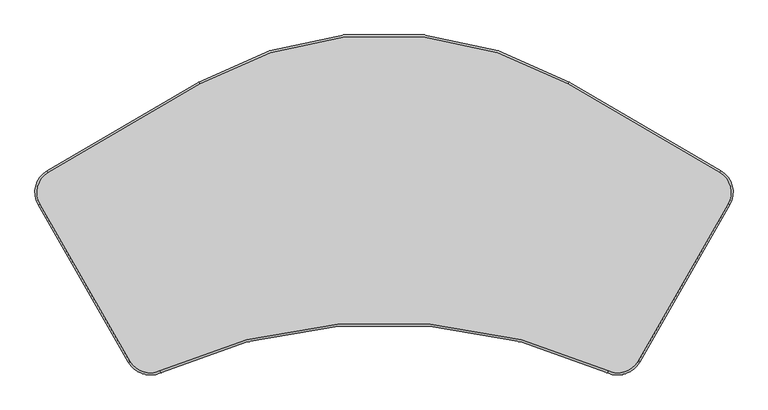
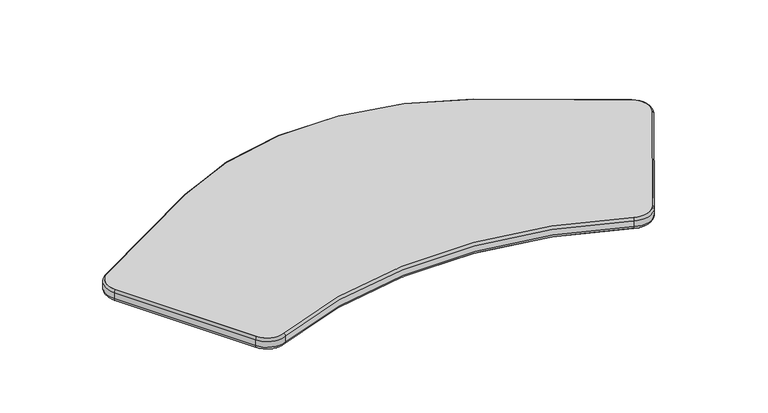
"""IFC4 building model written with IfcOpenShell, lengths in millimetres: furniture geometry, SmithSystem_AM_Table_Education_Elemental_Activity_Crescent_30Dx60W : 30D x 60W."""

from ifc_helpers import new_model, si_unit, point, frame, frame_2d, origin, place, context, project, spatial, polyline, circle_curve, ellipse_curve, trimmed, segment, composite_curve, outline, extrude, source, transform, mapped, element, save
from ifc_brep_helpers import plane_surface, cylinder_surface, revolved_surface, advanced_brep


def furniture_bfec62f4(model_context):
    return source(origin(), model_context, "Body", "SolidModel", [
        advanced_brep(
        [(30.9022, -609.6226712, 754.2523925), (360.0186904, -417.0000112, 754.2523925), (360.0186904, -417.0000112, 737.8734504), (30.9022, -609.6226712, 737.8734504), (32.9414039, -613.0213369, 762.0), (361.9833192, -420.4423236, 762.0), (32.9414039, -613.0213369, 730.2285912), (361.9833192, -420.4423236, 730.2285912), (11.5728031, -683.8273649, 754.2523925), (11.5728031, -683.8273649, 737.8734504), (15.0109671, -681.8554853, 762.0), (15.0109671, -681.8554853, 730.2285912), (207.2723212, -1025.0485111, 737.8734504), (207.2723212, -1025.0485111, 754.2523925), (210.7104852, -1023.0766314, 762.0), (210.7104852, -1023.0766314, 730.2285912), (277.4975904, -1047.6311108, 754.2523925), (277.4975904, -1047.6311108, 737.8734504), (275.8532189, -1044.0248214, 762.0), (275.8532189, -1044.0248214, 730.2285912), (1246.5024096, -1047.6311108, 754.2523925), (1246.5024096, -1047.6311108, 737.8734504), (1248.1467811, -1044.0248214, 762.0), (1248.1467811, -1044.0248214, 730.2285912), (1316.7276788, -1025.0485111, 754.2523925), (1316.7276788, -1025.0485111, 737.8734504), (1313.2895148, -1023.0766314, 762.0), (1313.2895148, -1023.0766314, 730.2285912), (1512.4271969, -683.8273649, 737.8734504), (1512.4271969, -683.8273649, 754.2523925), (1508.9890329, -681.8554853, 762.0), (1508.9890329, -681.8554853, 730.2285912), (1493.0978, -609.6226712, 754.2523925), (1493.0978, -609.6226712, 737.8734504), (1491.0585961, -613.0213369, 762.0), (1491.0585961, -613.0213369, 730.2285912), (1163.9813096, -417.0000112, 754.2523925), (1163.9813096, -417.0000112, 737.8734504), (1162.0166808, -420.4423236, 762.0), (1162.0166808, -420.4423236, 730.2285912)],
        [
            (0, 1, circle_curve(frame((9030.3611645, -15608.6875425, 754.2523925), z_axis=(0.0, 0.0, -1.0), x_axis=(-0.49568109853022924, 0.8685046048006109, 0.0)), 17491.7754578)),
            (1, 2),
            (2, 3, circle_curve(frame((9030.3611645, -15608.6875425, 737.8734504), z_axis=(0.0, 0.0, 1.0), x_axis=(-0.49568109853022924, 0.8685046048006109, 0.0)), 17491.7754578)),
            (3, 0),
            (4, 5, circle_curve(frame((9030.3611645, -15608.6875425, 762.0), z_axis=(0.0, 0.0, -1.0), x_axis=(-0.49568109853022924, 0.8685046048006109, 0.0)), 17487.8119643)),
            (5, 1, circle_curve(frame((364.7544444, -425.2977336, 754.2523925), z_axis=(-0.8685046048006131, -0.49568109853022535, 0.0), x_axis=(0.49568109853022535, -0.8685046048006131, 0.0)), 9.5540339)),
            (0, 4, circle_curve(frame((35.8177179, -617.8151829, 754.2523925), z_axis=(0.8574924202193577, 0.5144965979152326, 0.0), x_axis=(0.5144965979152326, -0.8574924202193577, 0.0)), 9.5540339)),
            (6, 7, circle_curve(frame((9030.3611645, -15608.6875425, 730.2285912), z_axis=(0.0, 0.0, -1.0), x_axis=(-0.49568109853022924, 0.8685046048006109, 0.0)), 17487.8119643)),
            (7, 5),
            (4, 6),
            (2, 7, circle_curve(frame((364.6555487, -425.1244541, 737.8734504), z_axis=(-0.8685046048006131, -0.49568109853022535, 0.0), x_axis=(0.49568109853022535, -0.8685046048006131, 0.0)), 9.3545191)),
            (6, 3, circle_curve(frame((35.7150683, -617.6441004, 737.8734504), z_axis=(0.8574924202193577, 0.5144965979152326, 0.0), x_axis=(0.5144965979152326, -0.8574924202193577, 0.0)), 9.3545191)),
            (8, 0, circle_curve(frame((59.0778311, -656.5819518, 754.2523925), z_axis=(0.0, 0.0, -1.0), x_axis=(-0.5144965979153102, 0.857492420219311, 0.0)), 54.7634935)),
            (3, 9, circle_curve(frame((59.0778311, -656.5819518, 737.8734504), z_axis=(0.0, 0.0, 1.0), x_axis=(-0.5144965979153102, 0.857492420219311, 0.0)), 54.7634935)),
            (9, 8),
            (10, 4, circle_curve(frame((59.0778311, -656.5819518, 762.0), z_axis=(0.0, 0.0, -1.0), x_axis=(-0.5144965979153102, 0.857492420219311, 0.0)), 50.8)),
            (8, 10, circle_curve(frame((19.8605258, -679.0741327, 754.2523925), z_axis=(-0.4975105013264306, 0.8674579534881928, 0.0), x_axis=(0.8674579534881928, 0.4975105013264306, 0.0)), 9.5540339)),
            (11, 6, circle_curve(frame((59.0778311, -656.5819518, 730.2285912), z_axis=(0.0, 0.0, -1.0), x_axis=(-0.5144965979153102, 0.857492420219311, 0.0)), 50.8)),
            (10, 11),
            (11, 9, circle_curve(frame((19.6874551, -679.1733934, 737.8734504), z_axis=(-0.4975105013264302, 0.867457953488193, 0.0), x_axis=(0.867457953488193, 0.4975105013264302, 0.0)), 9.3545191)),
            (9, 12),
            (12, 13),
            (13, 8),
            (13, 14, circle_curve(frame((215.5600439, -1020.2952789, 754.2523925), z_axis=(-0.4975105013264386, 0.8674579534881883, 0.0), x_axis=(0.8674579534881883, 0.4975105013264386, 0.0)), 9.5540339)),
            (14, 10),
            (14, 15),
            (15, 11),
            (15, 12, circle_curve(frame((215.3869732, -1020.3945396, 737.8734504), z_axis=(-0.4975105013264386, 0.8674579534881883, 0.0), x_axis=(0.8674579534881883, 0.4975105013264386, 0.0)), 9.3545191)),
            (16, 13, circle_curve(frame((254.7773492, -997.803098, 754.2523925), z_axis=(0.0, 0.0, -1.0), x_axis=(-0.8674579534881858, -0.4975105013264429, 0.0)), 54.7634935)),
            (12, 17, circle_curve(frame((254.7773492, -997.803098, 737.8734504), z_axis=(0.0, 0.0, 1.0), x_axis=(-0.8674579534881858, -0.4975105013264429, 0.0)), 54.7634935)),
            (17, 16),
            (18, 14, circle_curve(frame((254.7773492, -997.803098, 762.0), z_axis=(0.0, 0.0, -1.0), x_axis=(-0.8674579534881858, -0.4975105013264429, 0.0)), 50.8)),
            (16, 18, circle_curve(frame((273.5338193, -1038.9381204, 754.2523925), z_axis=(-0.9098764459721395, -0.41487932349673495, 0.0), x_axis=(-0.41487932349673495, 0.9098764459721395, 0.0)), 9.5540339)),
            (19, 15, circle_curve(frame((254.7773492, -997.803098, 730.2285912), z_axis=(0.0, 0.0, -1.0), x_axis=(-0.8674579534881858, -0.4975105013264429, 0.0)), 50.8)),
            (18, 19),
            (19, 17, circle_curve(frame((273.6165938, -1039.1196542, 737.8734504), z_axis=(-0.9098764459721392, -0.4148793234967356, 0.0), x_axis=(-0.4148793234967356, 0.9098764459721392, 0.0)), 9.3545191)),
            (20, 16, circle_curve(frame((762.0, -2110.1987192, 754.2523925), z_axis=(0.0, 0.0, 1.0), x_axis=(-0.41487932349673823, 0.9098764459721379, 0.0)), 1167.815271)),
            (17, 21, circle_curve(frame((762.0, -2110.1987192, 737.8734504), z_axis=(0.0, 0.0, -1.0), x_axis=(-0.41487932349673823, 0.9098764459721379, 0.0)), 1167.815271)),
            (21, 20),
            (22, 18, circle_curve(frame((762.0, -2110.1987192, 762.0), z_axis=(0.0, 0.0, 1.0), x_axis=(-0.41487932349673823, 0.9098764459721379, 0.0)), 1171.7787646)),
            (20, 22, circle_curve(frame((1250.4661807, -1038.9381204, 754.2523925), z_axis=(-0.909876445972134, 0.4148793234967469, 0.0), x_axis=(0.4148793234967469, 0.909876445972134, 0.0)), 9.5540339)),
            (23, 19, circle_curve(frame((762.0, -2110.1987192, 730.2285912), z_axis=(0.0, 0.0, 1.0), x_axis=(-0.41487932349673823, 0.9098764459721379, 0.0)), 1171.7787646)),
            (22, 23),
            (23, 21, circle_curve(frame((1250.3834062, -1039.1196542, 737.8734504), z_axis=(-0.909876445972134, 0.41487932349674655, 0.0), x_axis=(0.41487932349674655, 0.909876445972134, 0.0)), 9.3545191)),
            (24, 20, circle_curve(frame((1269.2226508, -997.803098, 754.2523925), z_axis=(0.0, 0.0, -1.0), x_axis=(-0.41487932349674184, -0.9098764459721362, 0.0)), 54.7634935)),
            (21, 25, circle_curve(frame((1269.2226508, -997.803098, 737.8734504), z_axis=(0.0, 0.0, 1.0), x_axis=(-0.41487932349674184, -0.9098764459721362, 0.0)), 54.7634935)),
            (25, 24),
            (26, 22, circle_curve(frame((1269.2226508, -997.803098, 762.0), z_axis=(0.0, 0.0, -1.0), x_axis=(-0.41487932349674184, -0.9098764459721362, 0.0)), 50.8)),
            (24, 26, circle_curve(frame((1308.4399561, -1020.2952789, 754.2523925), z_axis=(-0.4975105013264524, -0.8674579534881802, 0.0), x_axis=(-0.8674579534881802, 0.4975105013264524, 0.0)), 9.5540339)),
            (27, 23, circle_curve(frame((1269.2226508, -997.803098, 730.2285912), z_axis=(0.0, 0.0, -1.0), x_axis=(-0.41487932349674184, -0.9098764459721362, 0.0)), 50.8)),
            (26, 27),
            (27, 25, circle_curve(frame((1308.6130268, -1020.3945396, 737.8734504), z_axis=(-0.4975105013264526, -0.8674579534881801, 0.0), x_axis=(-0.8674579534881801, 0.4975105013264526, 0.0)), 9.3545191)),
            (25, 28),
            (28, 29),
            (29, 24),
            (29, 30, circle_curve(frame((1504.1394742, -679.0741327, 754.2523925), z_axis=(-0.49751050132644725, -0.8674579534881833, 0.0), x_axis=(-0.8674579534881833, 0.49751050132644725, 0.0)), 9.5540339)),
            (30, 26),
            (30, 31),
            (31, 27),
            (31, 28, circle_curve(frame((1504.3125449, -679.1733934, 737.8734504), z_axis=(-0.49751050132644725, -0.8674579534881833, 0.0), x_axis=(-0.8674579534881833, 0.49751050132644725, 0.0)), 9.3545191)),
            (32, 29, circle_curve(frame((1464.9221689, -656.5819518, 754.2523925), z_axis=(0.0, 0.0, -1.0), x_axis=(0.8674579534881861, -0.49751050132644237, 0.0)), 54.7634935)),
            (28, 33, circle_curve(frame((1464.9221689, -656.5819518, 737.8734504), z_axis=(0.0, 0.0, 1.0), x_axis=(0.8674579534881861, -0.49751050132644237, 0.0)), 54.7634935)),
            (33, 32),
            (34, 30, circle_curve(frame((1464.9221689, -656.5819518, 762.0), z_axis=(0.0, 0.0, -1.0), x_axis=(0.8674579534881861, -0.49751050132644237, 0.0)), 50.8)),
            (32, 34, circle_curve(frame((1488.1822821, -617.8151829, 754.2523925), z_axis=(0.8574924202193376, -0.5144965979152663, 0.0), x_axis=(-0.5144965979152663, -0.8574924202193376, 0.0)), 9.5540339)),
            (35, 31, circle_curve(frame((1464.9221689, -656.5819518, 730.2285912), z_axis=(0.0, 0.0, -1.0), x_axis=(0.8674579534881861, -0.49751050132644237, 0.0)), 50.8)),
            (34, 35),
            (35, 33, circle_curve(frame((1488.2849317, -617.6441004, 737.8734504), z_axis=(0.8574924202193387, -0.5144965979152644, 0.0), x_axis=(-0.5144965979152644, -0.8574924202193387, 0.0)), 9.3545191)),
            (36, 32, circle_curve(frame((-7506.3611645, -15608.6875425, 754.2523925), z_axis=(0.0, 0.0, -1.0), x_axis=(0.5144965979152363, 0.8574924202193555, 0.0)), 17491.7754578)),
            (33, 37, circle_curve(frame((-7506.3611645, -15608.6875425, 737.8734504), z_axis=(0.0, 0.0, 1.0), x_axis=(0.5144965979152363, 0.8574924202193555, 0.0)), 17491.7754578)),
            (37, 36),
            (38, 34, circle_curve(frame((-7506.3611645, -15608.6875425, 762.0), z_axis=(0.0, 0.0, -1.0), x_axis=(0.5144965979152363, 0.8574924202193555, 0.0)), 17487.8119643)),
            (36, 38, circle_curve(frame((1159.2455556, -425.2977336, 754.2523925), z_axis=(0.8685046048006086, -0.49568109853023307, 0.0), x_axis=(-0.49568109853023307, -0.8685046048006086, 0.0)), 9.5540339)),
            (39, 35, circle_curve(frame((-7506.3611645, -15608.6875425, 730.2285912), z_axis=(0.0, 0.0, -1.0), x_axis=(0.5144965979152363, 0.8574924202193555, 0.0)), 17487.8119643)),
            (38, 39),
            (39, 37, circle_curve(frame((1159.3444513, -425.1244541, 737.8734504), z_axis=(0.8685046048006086, -0.4956810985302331, 0.0), x_axis=(-0.4956810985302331, -0.8685046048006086, 0.0)), 9.3545191)),
            (1, 36, circle_curve(frame((762.0, -1121.329104, 754.2523925), z_axis=(0.0, 0.0, -1.0), x_axis=(0.4956810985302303, 0.8685046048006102, 0.0)), 810.9675976)),
            (37, 2, circle_curve(frame((762.0, -1121.329104, 737.8734504), z_axis=(0.0, 0.0, 1.0), x_axis=(0.4956810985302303, 0.8685046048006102, 0.0)), 810.9675976)),
            (5, 38, circle_curve(frame((762.0, -1121.329104, 762.0), z_axis=(0.0, 0.0, -1.0), x_axis=(0.4956810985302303, 0.8685046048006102, 0.0)), 807.004104)),
            (7, 39, circle_curve(frame((762.0, -1121.329104, 730.2285912), z_axis=(0.0, 0.0, -1.0), x_axis=(0.4956810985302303, 0.8685046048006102, 0.0)), 807.004104)),
        ],
        [
            cylinder_surface(frame((9030.3611645, -15608.6875425, 0.0), z_axis=(0.0, 0.0, 1.0), x_axis=(-0.49568109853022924, 0.8685046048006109, 0.0)), 17491.7754578),
            revolved_surface(trimmed(ellipse_curve(frame((364.7544444, -425.2977336, 754.2523925), z_axis=(0.8685046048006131, 0.49568109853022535, 0.0), x_axis=(0.49568109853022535, -0.8685046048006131, 0.0)), 9.5540339, 9.5540339), [point((360.0186904, -417.0000112, 754.2523925))], [point((361.9833192, -420.4423236, 762.0))], True, "CARTESIAN"), (9030.3611645, -15608.6875425, 0.0), (0.0, 0.0, 1.0)),
            revolved_surface(polyline([(361.983319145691, -420.4423236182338, 762.0), (361.983319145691, -420.4423236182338, 730.2285912)]), (9030.3611645, -15608.6875425, 0.0), (0.0, 0.0, 1.0)),
            revolved_surface(trimmed(ellipse_curve(frame((364.6555487, -425.1244541, 737.8734504), z_axis=(0.8685046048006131, 0.49568109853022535, 0.0), x_axis=(0.49568109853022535, -0.8685046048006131, 0.0)), 9.3545191, 9.3545191), [point((361.9833192, -420.4423236, 730.2285912))], [point((360.0186904, -417.0000112, 737.8734504))], True, "CARTESIAN"), (9030.3611645, -15608.6875425, 0.0), (0.0, 0.0, 1.0)),
            cylinder_surface(frame((59.0778311, -656.5819518, 0.0), z_axis=(0.0, 0.0, 1.0), x_axis=(-0.5144965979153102, 0.857492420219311, 0.0)), 54.7634935),
            revolved_surface(trimmed(ellipse_curve(frame((35.8177179, -617.8151829, 754.2523925), z_axis=(0.8574924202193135, 0.5144965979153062, 0.0), x_axis=(0.5144965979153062, -0.8574924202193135, 0.0)), 9.5540339, 9.5540339), [point((30.9022, -609.6226712, 754.2523925))], [point((32.9414039, -613.0213369, 762.0))], True, "CARTESIAN"), (59.0778311, -656.5819518, 0.0), (0.0, 0.0, 1.0)),
            revolved_surface(polyline([(32.941403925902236, -613.021336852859, 762.0), (32.941403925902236, -613.021336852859, 730.2285912)]), (59.0778311, -656.5819518, 0.0), (0.0, 0.0, 1.0)),
            revolved_surface(trimmed(ellipse_curve(frame((35.7150683, -617.6441004, 737.8734504), z_axis=(0.8574924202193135, 0.5144965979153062, 0.0), x_axis=(0.5144965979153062, -0.8574924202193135, 0.0)), 9.3545191, 9.3545191), [point((32.9414039, -613.0213369, 730.2285912))], [point((30.9022, -609.6226712, 737.8734504))], True, "CARTESIAN"), (59.0778311, -656.5819518, 0.0), (0.0, 0.0, 1.0)),
            plane_surface(frame((11.5728031, -683.8273649, 737.8734504), z_axis=(-0.867457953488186, -0.4975105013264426, 0.0), x_axis=(0.4975105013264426, -0.867457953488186, 0.0))),
            cylinder_surface(frame((19.8605258, -679.0741327, 754.2523925), z_axis=(-0.4975105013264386, 0.8674579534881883, 0.0), x_axis=(0.8674579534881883, 0.4975105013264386, 0.0)), 9.5540339),
            plane_surface(frame((15.0109671, -681.8554853, 762.0), z_axis=(0.8674579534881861, 0.4975105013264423, 0.0), x_axis=(0.4975105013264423, -0.8674579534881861, 0.0))),
            cylinder_surface(frame((19.6874551, -679.1733934, 737.8734504), z_axis=(-0.4975105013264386, 0.8674579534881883, 0.0), x_axis=(0.8674579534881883, 0.4975105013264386, 0.0)), 9.3545191),
            cylinder_surface(frame((254.7773492, -997.803098, 0.0), z_axis=(0.0, 0.0, 1.0), x_axis=(-0.8674579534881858, -0.4975105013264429, 0.0)), 54.7634935),
            revolved_surface(trimmed(ellipse_curve(frame((215.5600439, -1020.2952789, 754.2523925), z_axis=(-0.49751050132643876, 0.8674579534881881, 0.0), x_axis=(0.8674579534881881, 0.49751050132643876, 0.0)), 9.5540339, 9.5540339), [point((207.2723212, -1025.0485111, 754.2523925))], [point((210.7104852, -1023.0766314, 762.0))], True, "CARTESIAN"), (254.7773492, -997.803098, 0.0), (0.0, 0.0, 1.0)),
            revolved_surface(polyline([(210.71048516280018, -1023.0766314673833, 762.0), (210.71048516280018, -1023.0766314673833, 730.2285912)]), (254.7773492, -997.803098, 0.0), (0.0, 0.0, 1.0)),
            revolved_surface(trimmed(ellipse_curve(frame((215.3869732, -1020.3945396, 737.8734504), z_axis=(-0.49751050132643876, 0.8674579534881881, 0.0), x_axis=(0.8674579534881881, 0.49751050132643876, 0.0)), 9.3545191, 9.3545191), [point((210.7104852, -1023.0766314, 730.2285912))], [point((207.2723212, -1025.0485111, 737.8734504))], True, "CARTESIAN"), (254.7773492, -997.803098, 0.0), (0.0, 0.0, 1.0)),
            revolved_surface(polyline([(277.49759039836, -1047.631110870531, 737.8734504), (277.49759039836, -1047.631110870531, 754.2523925)]), (762.0, -2110.1987192, 0.0), (0.0, 0.0, -1.0)),
            revolved_surface(trimmed(ellipse_curve(frame((273.5338193, -1038.9381204, 754.2523925), z_axis=(-0.9098764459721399, -0.41487932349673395, 0.0), x_axis=(-0.41487932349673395, 0.9098764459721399, 0.0)), 9.5540339, 9.5540339), [point((277.4975904, -1047.6311108, 754.2523925))], [point((275.8532189, -1044.0248214, 762.0))], True, "CARTESIAN"), (762.0, -2110.1987192, 0.0), (0.0, 0.0, -1.0)),
            cylinder_surface(frame((762.0, -2110.1987192, 0.0), z_axis=(0.0, 0.0, -1.0), x_axis=(-0.41487932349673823, 0.9098764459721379, 0.0)), 1171.7787646),
            revolved_surface(trimmed(ellipse_curve(frame((273.6165938, -1039.1196542, 737.8734504), z_axis=(-0.9098764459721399, -0.41487932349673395, 0.0), x_axis=(-0.41487932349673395, 0.9098764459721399, 0.0)), 9.3545191, 9.3545191), [point((275.8532189, -1044.0248214, 730.2285912))], [point((277.4975904, -1047.6311108, 737.8734504))], True, "CARTESIAN"), (762.0, -2110.1987192, 0.0), (0.0, 0.0, -1.0)),
            cylinder_surface(frame((1269.2226508, -997.803098, 0.0), z_axis=(0.0, 0.0, 1.0), x_axis=(-0.41487932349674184, -0.9098764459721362, 0.0)), 54.7634935),
            revolved_surface(trimmed(ellipse_curve(frame((1250.4661807, -1038.9381204, 754.2523925), z_axis=(-0.9098764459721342, 0.4148793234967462, 0.0), x_axis=(0.4148793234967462, 0.9098764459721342, 0.0)), 9.5540339, 9.5540339), [point((1246.5024096, -1047.6311108, 754.2523925))], [point((1248.1467811, -1044.0248214, 762.0))], True, "CARTESIAN"), (1269.2226508, -997.803098, 0.0), (0.0, 0.0, 1.0)),
            revolved_surface(polyline([(1248.1467811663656, -1044.0248214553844, 762.0), (1248.1467811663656, -1044.0248214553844, 730.2285912)]), (1269.2226508, -997.803098, 0.0), (0.0, 0.0, 1.0)),
            revolved_surface(trimmed(ellipse_curve(frame((1250.3834062, -1039.1196542, 737.8734504), z_axis=(-0.9098764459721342, 0.4148793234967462, 0.0), x_axis=(0.4148793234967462, 0.9098764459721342, 0.0)), 9.3545191, 9.3545191), [point((1248.1467811, -1044.0248214, 730.2285912))], [point((1246.5024096, -1047.6311108, 737.8734504))], True, "CARTESIAN"), (1269.2226508, -997.803098, 0.0), (0.0, 0.0, 1.0)),
            plane_surface(frame((1316.7276788, -1025.0485111, 737.8734504), z_axis=(0.8674579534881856, -0.49751050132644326, 0.0), x_axis=(0.49751050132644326, 0.8674579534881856, 0.0))),
            cylinder_surface(frame((1308.4399561, -1020.2952789, 754.2523925), z_axis=(-0.49751050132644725, -0.8674579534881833, 0.0), x_axis=(-0.8674579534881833, 0.49751050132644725, 0.0)), 9.5540339),
            plane_surface(frame((1313.2895148, -1023.0766314, 762.0), z_axis=(-0.8674579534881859, 0.49751050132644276, 0.0), x_axis=(0.49751050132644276, 0.8674579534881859, 0.0))),
            cylinder_surface(frame((1308.6130268, -1020.3945396, 737.8734504), z_axis=(-0.49751050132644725, -0.8674579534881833, 0.0), x_axis=(-0.8674579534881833, 0.49751050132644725, 0.0)), 9.3545191),
            cylinder_surface(frame((1464.9221689, -656.5819518, 0.0), z_axis=(0.0, 0.0, 1.0), x_axis=(0.8674579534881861, -0.49751050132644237, 0.0)), 54.7634935),
            revolved_surface(trimmed(ellipse_curve(frame((1504.1394742, -679.0741327, 754.2523925), z_axis=(-0.4975105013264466, -0.8674579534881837, 0.0), x_axis=(-0.8674579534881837, 0.4975105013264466, 0.0)), 9.5540339, 9.5540339), [point((1512.4271969, -683.8273649, 754.2523925))], [point((1508.9890329, -681.8554853, 762.0))], True, "CARTESIAN"), (1464.9221689, -656.5819518, 0.0), (0.0, 0.0, 1.0)),
            revolved_surface(polyline([(1508.9890329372, -681.8554852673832, 762.0), (1508.9890329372, -681.8554852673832, 730.2285912)]), (1464.9221689, -656.5819518, 0.0), (0.0, 0.0, 1.0)),
            revolved_surface(trimmed(ellipse_curve(frame((1504.3125449, -679.1733934, 737.8734504), z_axis=(-0.4975105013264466, -0.8674579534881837, 0.0), x_axis=(-0.8674579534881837, 0.4975105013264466, 0.0)), 9.3545191, 9.3545191), [point((1508.9890329, -681.8554853, 730.2285912))], [point((1512.4271969, -683.8273649, 737.8734504))], True, "CARTESIAN"), (1464.9221689, -656.5819518, 0.0), (0.0, 0.0, 1.0)),
            cylinder_surface(frame((-7506.3611645, -15608.6875425, 0.0), z_axis=(0.0, 0.0, 1.0), x_axis=(0.5144965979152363, 0.8574924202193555, 0.0)), 17491.7754578),
            revolved_surface(trimmed(ellipse_curve(frame((1488.1822821, -617.8151829, 754.2523925), z_axis=(0.857492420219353, -0.5144965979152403, 0.0), x_axis=(-0.5144965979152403, -0.857492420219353, 0.0)), 9.5540339, 9.5540339), [point((1493.0978, -609.6226712, 754.2523925))], [point((1491.0585961, -613.0213369, 762.0))], True, "CARTESIAN"), (-7506.3611645, -15608.6875425, 0.0), (0.0, 0.0, 1.0)),
            revolved_surface(polyline([(1491.0585961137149, -613.0213368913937, 762.0), (1491.0585961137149, -613.0213368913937, 730.2285912)]), (-7506.3611645, -15608.6875425, 0.0), (0.0, 0.0, 1.0)),
            revolved_surface(trimmed(ellipse_curve(frame((1488.2849317, -617.6441004, 737.8734504), z_axis=(0.857492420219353, -0.5144965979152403, 0.0), x_axis=(-0.5144965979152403, -0.857492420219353, 0.0)), 9.3545191, 9.3545191), [point((1491.0585961, -613.0213369, 730.2285912))], [point((1493.0978, -609.6226712, 737.8734504))], True, "CARTESIAN"), (-7506.3611645, -15608.6875425, 0.0), (0.0, 0.0, 1.0)),
            cylinder_surface(frame((762.0, -1121.329104, 0.0), z_axis=(0.0, 0.0, 1.0), x_axis=(0.4956810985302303, 0.8685046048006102, 0.0)), 810.9675976),
            revolved_surface(trimmed(ellipse_curve(frame((1159.2455556, -425.2977336, 754.2523925), z_axis=(0.8685046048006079, -0.4956810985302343, 0.0), x_axis=(-0.4956810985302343, -0.8685046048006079, 0.0)), 9.5540339, 9.5540339), [point((1163.9813096, -417.0000112, 754.2523925))], [point((1162.0166808, -420.4423236, 762.0))], True, "CARTESIAN"), (762.0, -1121.329104, 0.0), (0.0, 0.0, 1.0)),
            revolved_surface(polyline([(1162.0166807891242, -420.4423235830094, 762.0), (1162.0166807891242, -420.4423235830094, 730.2285912)]), (762.0, -1121.329104, 0.0), (0.0, 0.0, 1.0)),
            revolved_surface(trimmed(ellipse_curve(frame((1159.3444513, -425.1244541, 737.8734504), z_axis=(0.8685046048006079, -0.4956810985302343, 0.0), x_axis=(-0.4956810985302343, -0.8685046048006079, 0.0)), 9.3545191, 9.3545191), [point((1162.0166808, -420.4423236, 730.2285912))], [point((1163.9813096, -417.0000112, 737.8734504))], True, "CARTESIAN"), (762.0, -1121.329104, 0.0), (0.0, 0.0, 1.0)),
        ],
        [
            (0, [[1, 2, 3, 4]]),
            (1, [[5, 6, -1, 7]]),
            (2, [[8, 9, -5, 10]]),
            (3, [[-3, 11, -8, 12]]),
            (4, [[13, -4, 14, 15]]),
            (5, [[16, -7, -13, 17]]),
            (6, [[18, -10, -16, 19]]),
            (7, [[-14, -12, -18, 20]]),
            (8, [[-15, 21, 22, 23]]),
            (9, [[-17, -23, 24, 25]]),
            (10, [[-19, -25, 26, 27]]),
            (11, [[-20, -27, 28, -21]]),
            (12, [[29, -22, 30, 31]]),
            (13, [[32, -24, -29, 33]]),
            (14, [[34, -26, -32, 35]]),
            (15, [[-30, -28, -34, 36]]),
            (16, [[37, -31, 38, 39]]),
            (17, [[40, -33, -37, 41]]),
            (18, [[42, -35, -40, 43]]),
            (19, [[-38, -36, -42, 44]]),
            (20, [[45, -39, 46, 47]]),
            (21, [[48, -41, -45, 49]]),
            (22, [[50, -43, -48, 51]]),
            (23, [[-46, -44, -50, 52]]),
            (24, [[-47, 53, 54, 55]]),
            (25, [[-49, -55, 56, 57]]),
            (26, [[-51, -57, 58, 59]]),
            (27, [[-52, -59, 60, -53]]),
            (28, [[61, -54, 62, 63]]),
            (29, [[64, -56, -61, 65]]),
            (30, [[66, -58, -64, 67]]),
            (31, [[-62, -60, -66, 68]]),
            (32, [[69, -63, 70, 71]]),
            (33, [[72, -65, -69, 73]]),
            (34, [[74, -67, -72, 75]]),
            (35, [[-70, -68, -74, 76]]),
            (36, [[77, -71, 78, -2]]),
            (37, [[79, -73, -77, -6]]),
            (38, [[80, -75, -79, -9]]),
            (39, [[-78, -76, -80, -11]]),
        ],
    ),
        extrude(outline(composite_curve([segment(trimmed(circle_curve(frame_2d((-7506.3611645, -15608.6875425)), 17487.8119643), [point((1162.0166808, -420.4423236))], [point((1491.0585961, -613.0213369))], False, "CARTESIAN"), True, "CONTINUOUS"), segment(trimmed(circle_curve(frame_2d((1464.9221689, -656.5819518)), 50.8), [point((1491.0585961, -613.0213369))], [point((1508.9890329, -681.8554853))], False, "CARTESIAN"), True, "CONTINUOUS"), segment(polyline([(1508.9890329, -681.8554853), (1313.2895148, -1023.0766314)]), True, "CONTINUOUS"), segment(trimmed(circle_curve(frame_2d((1269.2226508, -997.803098)), 50.8), [point((1313.2895148, -1023.0766314))], [point((1248.1467811, -1044.0248214))], False, "CARTESIAN"), True, "CONTINUOUS"), segment(trimmed(circle_curve(frame_2d((762.0, -2110.1987192)), 1171.7787646), [point((1248.1467811, -1044.0248214))], [point((275.8532189, -1044.0248214))], True, "CARTESIAN"), True, "CONTINUOUS"), segment(trimmed(circle_curve(frame_2d((254.7773492, -997.803098)), 50.8), [point((275.8532189, -1044.0248214))], [point((210.7104852, -1023.0766314))], False, "CARTESIAN"), True, "CONTINUOUS"), segment(polyline([(210.7104852, -1023.0766314), (15.0109671, -681.8554853)]), True, "CONTINUOUS"), segment(trimmed(circle_curve(frame_2d((59.0778311, -656.5819518)), 50.8), [point((15.0109671, -681.8554853))], [point((32.9414039, -613.0213369))], False, "CARTESIAN"), True, "CONTINUOUS"), segment(trimmed(circle_curve(frame_2d((9030.3611645, -15608.6875425)), 17487.8119643), [point((32.9414039, -613.0213369))], [point((361.9833192, -420.4423236))], False, "CARTESIAN"), True, "CONTINUOUS"), segment(trimmed(circle_curve(frame_2d((762.0, -1121.329104)), 807.004104), [point((361.9833192, -420.4423236))], [point((1162.0166808, -420.4423236))], False, "CARTESIAN"), True, "CONTINUOUS")], self_intersect=False)), frame((0.0, 0.0, 730.2285912), z_axis=(0.0, 0.0, 1.0), x_axis=(1.0, 0.0, 0.0)), (0.0, 0.0, 1.0), 31.7714088),
    ])


if __name__ == "__main__":
    model = new_model("IFC4")
    model_context = context("Model", 3, world=origin())
    ifc_project = project(units=[si_unit("LENGTHUNIT", "METRE", prefix="MILLI")], contexts=[model_context])
    site = spatial("IfcSite", under=ifc_project)
    building = spatial("IfcBuilding", under=site)
    placement = place(None, origin())
    furniture_shape = furniture_bfec62f4(model_context)
    element("IfcFurniture", 1, ObjectType="SmithSystem_AM_Table_Education_Elemental_Activity_Crescent_30Dx60W : 30D x 60W", at=placement, inside=building, context=model_context, shape_type="MappedRepresentation", body=[
        mapped(furniture_shape, transform((0.0, 0.0, 0.0), x_axis=(1.0, 0.0, 0.0), y_axis=(0.0, 1.0, 0.0), z_axis=(0.0, 0.0, 1.0))),
    ])
    save(model, "model.ifc")
